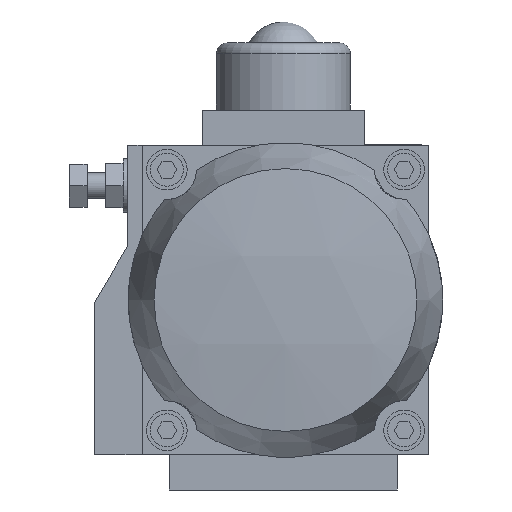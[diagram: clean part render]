
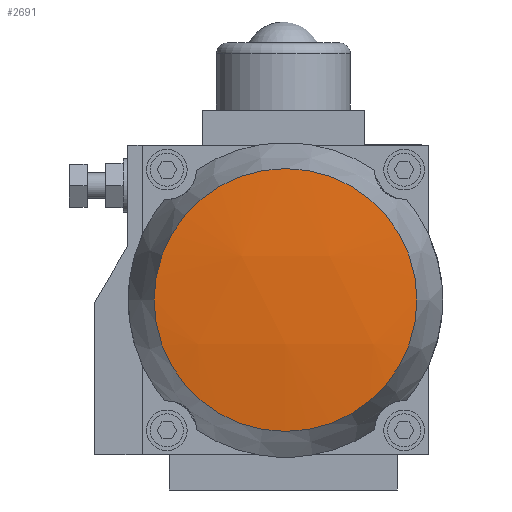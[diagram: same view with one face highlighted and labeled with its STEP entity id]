
A CAD part, front view. The second image highlights one B-rep face of the part: STEP entity #2691.
In plain terms, the highlighted spherical face has radius 301.486 mm.
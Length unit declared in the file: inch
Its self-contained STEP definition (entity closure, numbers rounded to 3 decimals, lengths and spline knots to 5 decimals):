
#2675=CARTESIAN_POINT('',(2.235,7.07703,1.8125));
#2676=DIRECTION('',(0.0,0.0,1.0));
#2677=DIRECTION('',(1.0,0.0,0.0));
#2678=AXIS2_PLACEMENT_3D('',#2675,#2676,#2677);
#2679=SPHERICAL_SURFACE('',#2678,11.86953);
#2680=CARTESIAN_POINT('',(0.6975,-4.6925,1.8125));
#2681=VERTEX_POINT('',#2680);
#2682=CARTESIAN_POINT('',(2.235,-4.6925,1.8125));
#2683=DIRECTION('',(0.,1.0,0.0));
#2684=DIRECTION('',(-1.0,0.,0.0));
#2685=AXIS2_PLACEMENT_3D('',#2682,#2683,#2684);
#2686=CIRCLE('',#2685,1.5375);
#2687=EDGE_CURVE('',#2681,#2681,#2686,.T.);
#2688=ORIENTED_EDGE('',*,*,#2687,.F.);
#2689=EDGE_LOOP('',(#2688));
#2690=FACE_OUTER_BOUND('',#2689,.T.);
#2691=ADVANCED_FACE('',(#2690),#2679,.T.);
